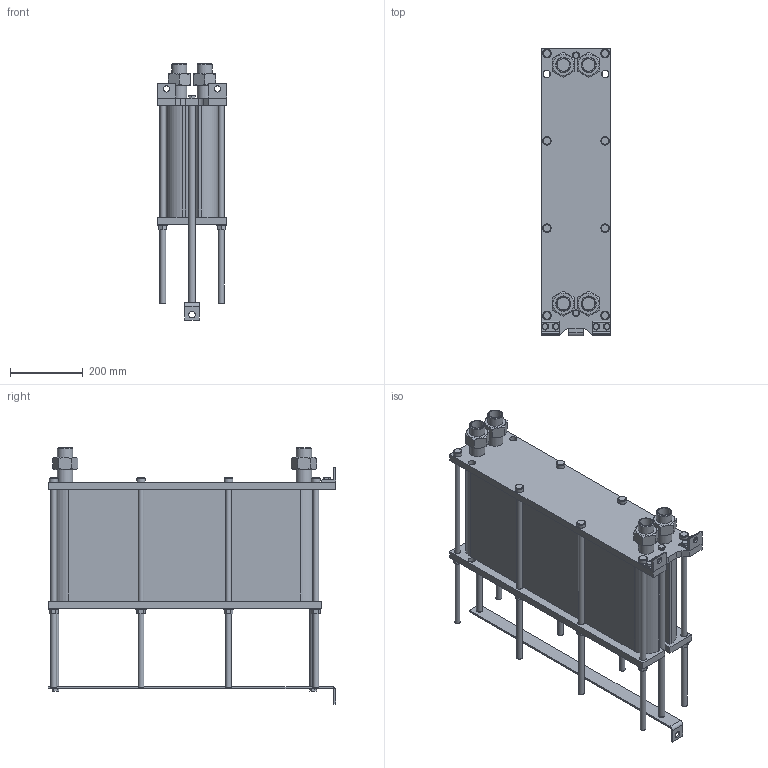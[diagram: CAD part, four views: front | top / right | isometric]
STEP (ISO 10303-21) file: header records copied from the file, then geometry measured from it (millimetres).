
FILE_DESCRIPTION(/* description */ (''),/* implementation_level */ '2;1');
FILE_NAME(/* name */ 'C:\Users\zhuro\Desktop\ENCO\TO\ЭН-008\ЭН-0,5-008-99-1.stp',/* time_stamp */ '2022-06-06T10:54:42+03:00',/* author */ ('zhuro'),/* organization */ (''),/* preprocessor_version */ 'ST-DEVELOPER v18.1',/* originating_system */ 'Autodesk Inventor 2022',/* authorisation */ '');
FILE_SCHEMA (('AUTOMOTIVE_DESIGN { 1 0 10303 214 3 1 1 }'));
Length unit declared in the file: millimetre
Products named in the file (1): ЭН-0,5-008-99-1
Bounding box: 190 x 790 x 704.2 mm (x, y, z)
Volume: 38250919.2 mm3; surface area: 2013066 mm2
Topology: 40 solids, 40 shells, 428 faces, 924 edges, 606 vertices
Faces by surface type: plane 273, cylinder 109, cone 40, torus 6
Full cylindrical faces by diameter (mm): 12 x6, 14 x2, 16 x20, 17 x8, 18 x19, 20 x5, 24 x8, 28 x8, 34.3 x8, 42.3 x8
Entity records: 15843 total; most frequent: CARTESIAN_POINT 5991, DIRECTION 1984, ORIENTED_EDGE 1848, EDGE_CURVE 924, AXIS2_PLACEMENT_3D 715, VERTEX_POINT 606, LINE 554, VECTOR 554
